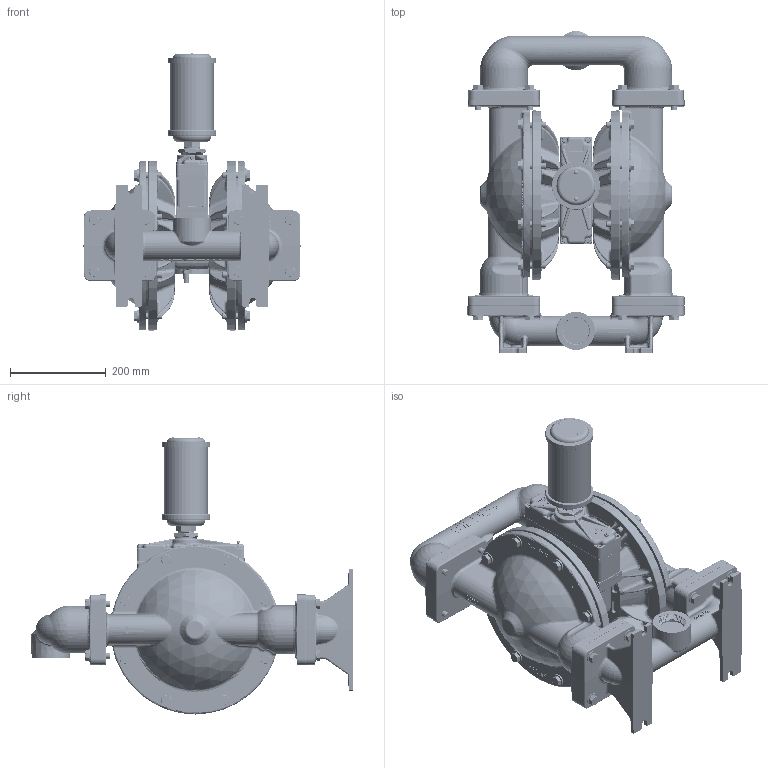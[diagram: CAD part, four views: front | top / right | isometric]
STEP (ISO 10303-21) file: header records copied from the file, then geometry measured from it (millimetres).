
FILE_DESCRIPTION (( 'STEP AP203' ), '1' );
FILE_NAME ('PS820_DI_TOP s.STEP', '2022-06-14T10:53:46', ( '' ), ( '' ), 'SwSTEP 2.0', 'SolidWorks 2019', '' );
FILE_SCHEMA (( 'CONFIG_CONTROL_DESIGN' ));
Length unit declared in the file: inch
Products named in the file (1): PS820_DI_TOP s
Bounding box: 452.45 x 670.59 x 578.43 mm (x, y, z)
Volume: 27326427.2 mm3; surface area: 1605319.9 mm2
Topology: 1 solids, 1 shells, 9942 faces, 25695 edges, 16236 vertices
Faces by surface type: plane 6077, bspline 1472, cylinder 1079, cone 641, torus 471, sphere 202
Entity records: 664350 total; most frequent: CARTESIAN_POINT 432999, ORIENTED_EDGE 51318, DIRECTION 42984, EDGE_CURVE 25659, LINE 16744, VECTOR 16744, VERTEX_POINT 16224, AXIS2_PLACEMENT_3D 13120
